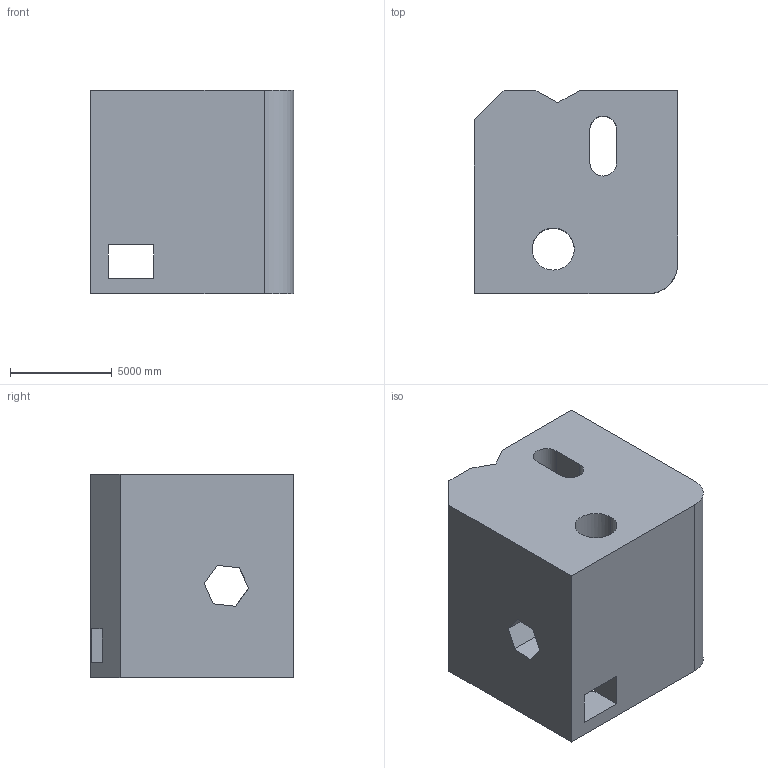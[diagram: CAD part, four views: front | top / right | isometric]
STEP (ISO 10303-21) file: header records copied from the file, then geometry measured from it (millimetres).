
FILE_DESCRIPTION (( 'STEP AP203' ), '1' );
FILE_NAME ('1732.STEP', '2022-08-26T10:32:57', ( 'user' ), ( '' ), 'SwSTEP 2.0', 'SolidWorks 2021', '' );
FILE_SCHEMA (( 'CONFIG_CONTROL_DESIGN' ));
Length unit declared in the file: centimetre
Products named in the file (1): 1732
Bounding box: 10000 x 10000 x 10000 mm (x, y, z)
Volume: 823613344204.2 mm3; surface area: 852247489.4 mm2
Topology: 1 solids, 1 shells, 38 faces, 123 edges, 82 vertices
Faces by surface type: plane 29, cylinder 9
Entity records: 1926 total; most frequent: CARTESIAN_POINT 754, ORIENTED_EDGE 246, DIRECTION 205, EDGE_CURVE 123, VECTOR 91, LINE 91, VERTEX_POINT 82, AXIS2_PLACEMENT_3D 57
